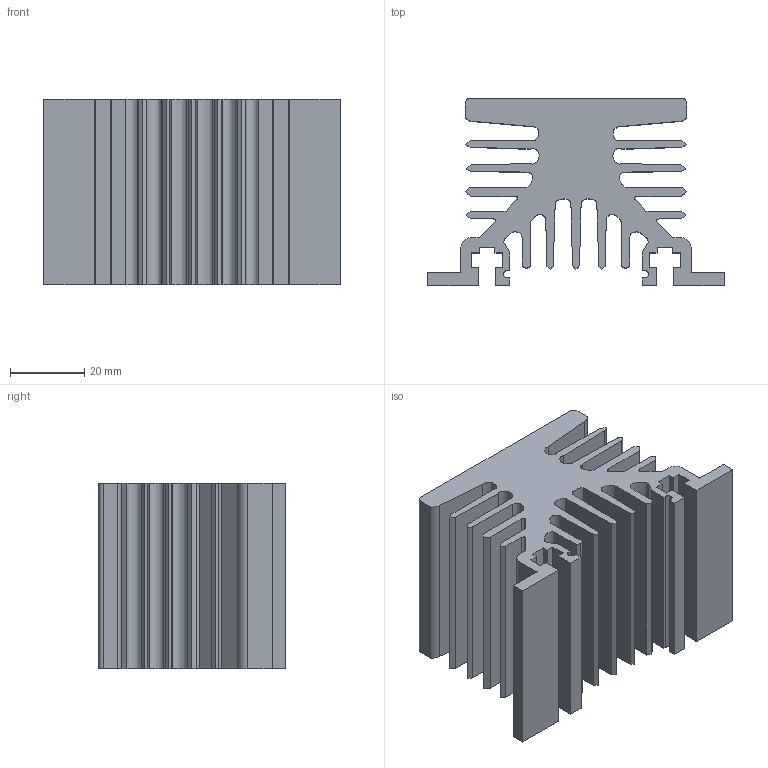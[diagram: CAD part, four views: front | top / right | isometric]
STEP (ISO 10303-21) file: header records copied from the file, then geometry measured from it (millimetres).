
FILE_DESCRIPTION(/* description */ ('Alibre Inc.'),/* implementation_level */ '2;1');
FILE_NAME(/* name */ 'export0',/* time_stamp */ '2014-12-08T13:41:25-07:00',/* author */ (''),/* organization */ (''),/* preprocessor_version */ 'ST-DEVELOPER v14',/* originating_system */ 'Alibre',/* authorisation */ '');
FILE_SCHEMA (('CONFIG_CONTROL_DESIGN'));
Length unit declared in the file: centimetre
Products named in the file (1): ID_1
Bounding box: 80.21 x 50.54 x 50 mm (x, y, z)
Volume: 88724.2 mm3; surface area: 42250.4 mm2
Topology: 1 solids, 1 shells, 131 faces, 387 edges, 258 vertices
Faces by surface type: plane 107, bspline 18, cylinder 6
Entity records: 4683 total; most frequent: CARTESIAN_POINT 1314, ORIENTED_EDGE 774, DIRECTION 482, EDGE_CURVE 387, VECTOR 339, LINE 339, VERTEX_POINT 258, EDGE_LOOP 131
